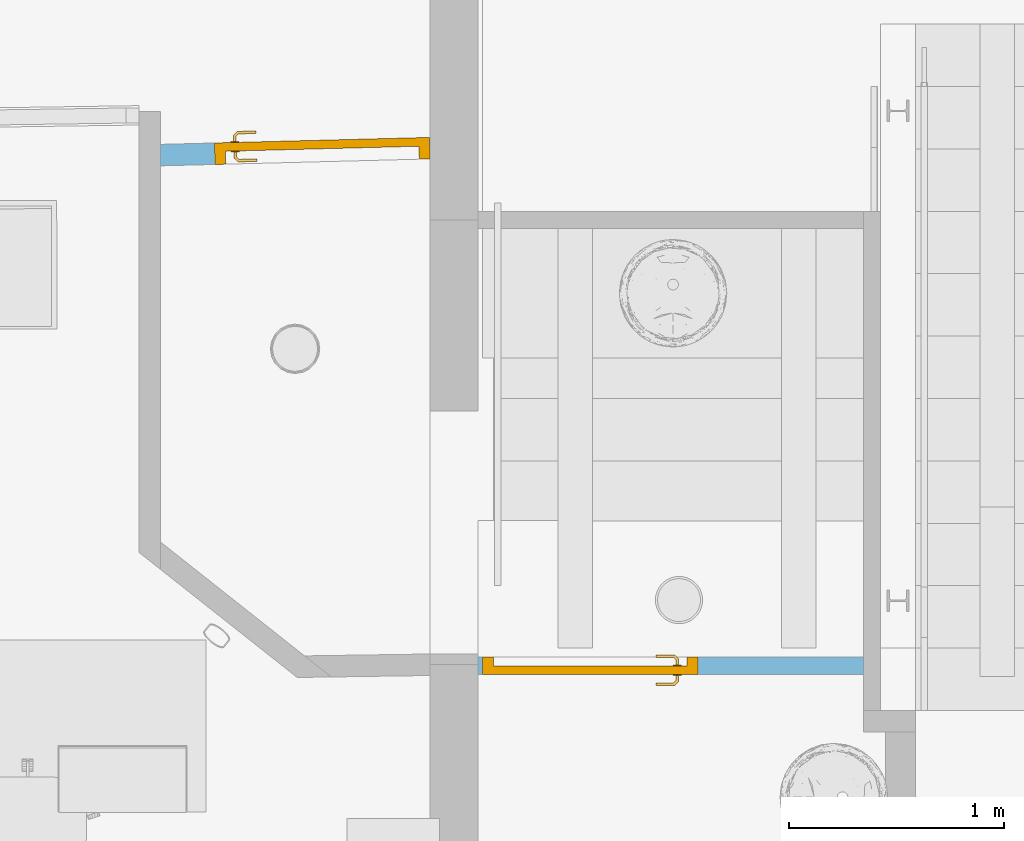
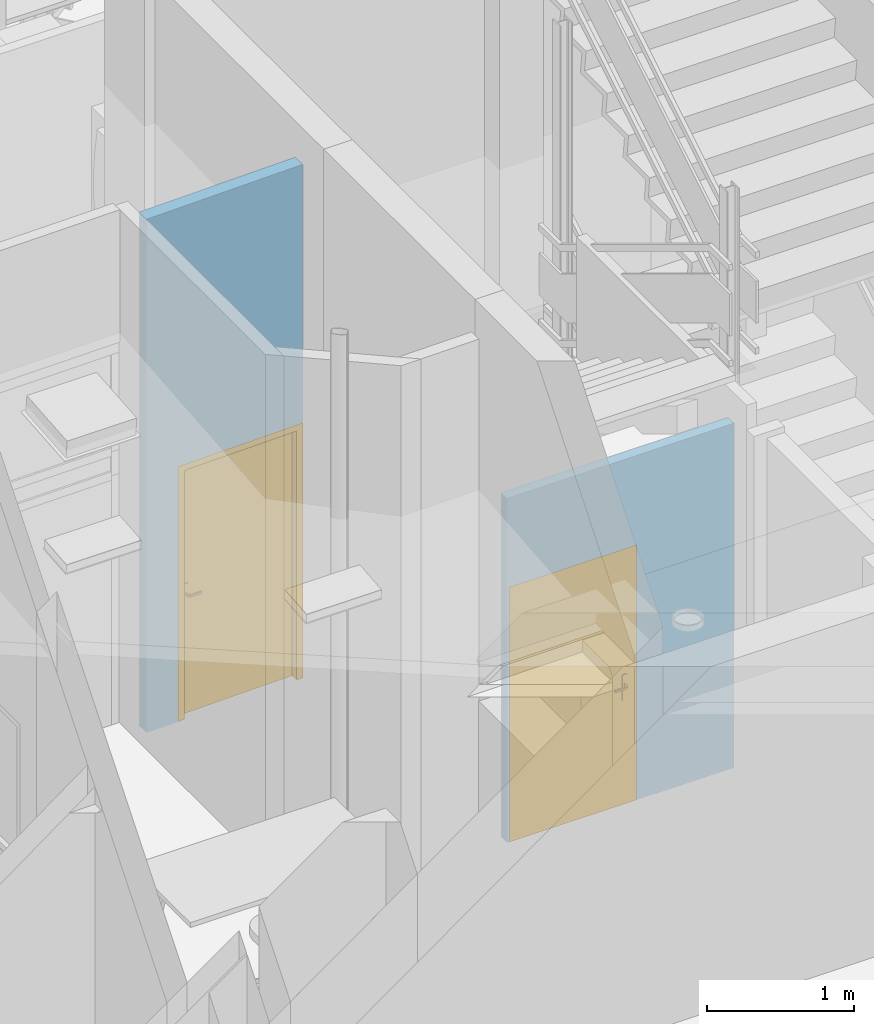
# One storey, part 38 of 128: 2 doors, 2 openings, plus 2 elements that do not belong to this part.
"""IFC2X3 building model written with IfcOpenShell, lengths in metres."""

from ifc_helpers import new_model, entity, si_unit, converted_unit, derived_unit, direction, frame, frame_2d, origin, place, context, subcontext, project, spatial, polyline, rectangle, outline, extrude, faceted_brep, source, transform, mapped, material, layer, layer_set, layer_usage, type_object, type_shapes, element, fill, save


model = new_model("IFC2X3")

# Units and contexts
model_context = context("Model", 3, precision=1e-05, world=origin(), true_north=direction((6.123031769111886e-17, 1.0)))
body_context = subcontext(model_context, "Body", "Model", "MODEL_VIEW")
ifc_project = project(units=[si_unit("LENGTHUNIT", "METRE"), si_unit("AREAUNIT", "SQUARE_METRE"), converted_unit("PLANEANGLEUNIT", "DEGREE", entity("IfcPlaneAngleMeasure", 0.017453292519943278), si_unit("PLANEANGLEUNIT", "RADIAN"), dimensions=[0, 0, 0, 0, 0, 0, 0]), derived_unit("THERMALTRANSMITTANCEUNIT", [(si_unit("MASSUNIT", "GRAM", prefix="KILO"), 1), (si_unit("THERMODYNAMICTEMPERATUREUNIT", "KELVIN"), -1), (si_unit("TIMEUNIT", "SECOND"), -3)])], contexts=[model_context])

# Site, building, storey
site_placement = place(None, origin())
site = spatial("IfcSite", under=ifc_project, at=site_placement, Name="Default", CompositionType="ELEMENT")
building_placement = place(site_placement, origin())
building = spatial("IfcBuilding", under=site, at=building_placement, CompositionType="ELEMENT")
storey_placement = place(building_placement, origin())
storey = spatial("IfcBuildingStorey", under=building, at=storey_placement, Name="00_RDC CAF", CompositionType="ELEMENT", Elevation=2.4982504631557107e-13)

# Wall, opening, door
ifc_material_1 = material(Name="ARC - Cloison")
ifc_layer_1 = layer(ifc_material_1, 0.1)
ifc_layer_set_1 = layer_set([ifc_layer_1], Name="Mur de base:Cl_Platre_100mm")
ifc_layer_usage_1 = layer_usage(ifc_layer_set_1, "AXIS2", "NEGATIVE", 0.05)
wall_type_1 = type_object("IfcWallType", Name="Mur de base:Cl_Platre_100mm", PredefinedType="STANDARD", material=ifc_layer_set_1)
wall_1_placement = place(storey_placement, frame((17.517688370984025, 134.3349596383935, 0.0), z_axis=(0.0, 0.0, 1.0), x_axis=(0.9996670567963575, 0.025802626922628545, 0.0)))
wall_1 = element("IfcWallStandardCase", 1, at=wall_1_placement, inside=storey, type_object=wall_type_1, material=ifc_layer_usage_1, Name="Mur de base:Cl_Platre_100mm", ObjectType="Mur de base:Cl_Platre_100mm", context=body_context, shape_type="SweptSolid", body=[
    extrude(outline(polyline([(0.0, -0.04999999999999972), (1.252152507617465, -0.05000000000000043), (1.2547336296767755, 0.04999999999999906), (0.002581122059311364, 0.04999999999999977), (0.0, -0.04999999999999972)])), origin(), (0.0, 0.0, 1.0), 4.278),
])
opening_1_placement = place(wall_1_placement, frame((0.25329704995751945, -0.04999999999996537, 0.0)))
opening_1 = element("IfcOpeningElement", 2, at=opening_1_placement, cuts=wall_1, Name="P_Tunnel_Simple:P_Int_Simple_Pleine_930x2090mm:1", ObjectType="Opening", context=body_context, shape_type="SweptSolid", body=[
    extrude(rectangle(XDim=2.1249999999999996, YDim=1.0, at=frame_2d((1.0624999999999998, 0.5), x_axis=(1.0, 0.0))), frame((0.0, 0.0, 0.0), z_axis=(0.0, 1.0, 0.0), x_axis=(0.0, 0.0, 1.0)), (0.0, 0.0, 1.0), 0.09999999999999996),
])
ifc_material_2 = material(Name="ARC - M.In - Blanc")
door_style_1 = type_object("IfcDoorStyle", Name="P_Tunnel_Simple:P_Int_Simple_Pleine_930x2090mm", ConstructionType="NOTDEFINED", OperationType="NOTDEFINED", ParameterTakesPrecedence=False, Sizeable=False, material=ifc_material_2)
shared_shape_1 = source(origin(), body_context, "Body", "Brep", [
    faceted_brep([(0.9029747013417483, 0.04500000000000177, 0.9922195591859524), (0.9070252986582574, 0.04500000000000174, 0.9922195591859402), (0.9110000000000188, 0.04500000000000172, 0.9929999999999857), (0.9110000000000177, 0.04500000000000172, 1.0069999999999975), (0.9070252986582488, 0.04500000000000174, 1.0077804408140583), (0.9029747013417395, 0.04500000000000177, 1.0077804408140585), (0.8989999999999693, 0.04500000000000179, 1.0069999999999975), (0.8989999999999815, 0.04500000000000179, 0.9930000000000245), (0.8989999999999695, 0.06748520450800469, 1.0069999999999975), (0.8989999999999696, 0.06748520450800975, 0.9930000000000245), (0.9029747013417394, 0.06913157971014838, 1.0077804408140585), (0.9070252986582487, 0.07080939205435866, 1.0077804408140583), (0.8908389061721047, 0.08699578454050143, 1.0077804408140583), (0.8891610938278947, 0.08294518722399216, 1.0077804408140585), (0.9110000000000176, 0.072455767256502, 1.0069999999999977), (0.9110000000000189, 0.07245576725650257, 0.9929999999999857), (0.9070252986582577, 0.07080939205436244, 0.9922195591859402), (0.9029747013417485, 0.0691315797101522, 0.9922195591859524), (0.8891610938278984, 0.08294518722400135, 0.9922195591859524), (0.8908389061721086, 0.08699578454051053, 0.9922195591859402), (0.8875147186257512, 0.07897048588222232, 1.0069999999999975), (0.8875147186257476, 0.07897048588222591, 0.9930000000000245), (0.8924852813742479, 0.09097048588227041, 1.0069999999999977), (0.8924852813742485, 0.09097048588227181, 0.9929999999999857), (0.8049542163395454, 0.08294518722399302, 1.0077804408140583), (0.8049542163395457, 0.08699578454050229, 1.007780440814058), (0.8049542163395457, 0.09097048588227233, 1.006999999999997), (0.8049542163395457, 0.09097048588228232, 0.9929999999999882), (0.8049542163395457, 0.08699578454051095, 0.99221955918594), (0.8049542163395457, 0.08294518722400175, 0.9922195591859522), (0.8049542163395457, 0.07897048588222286, 0.993000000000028), (0.8049542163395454, 0.07897048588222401, 1.0069999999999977), (0.8462344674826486, 0.07897048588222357, 1.0069999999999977), (0.8462344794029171, 0.07897048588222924, 0.9930000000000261), (0.8470576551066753, 0.08497048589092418, 1.0078786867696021), (0.8525547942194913, 0.09097048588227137, 1.0069999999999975), (0.8525547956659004, 0.09097048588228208, 0.9929999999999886), (0.8470576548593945, 0.08497048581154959, 0.9921213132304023)], [[[0, 1, 2, 3, 4, 5, 6, 7]], [[8, 9, 7, 6]], [[5, 10, 8, 6]], [[5, 4, 11, 12, 13, 10]], [[3, 14, 11, 4]], [[14, 3, 2, 15]], [[2, 1, 16, 15]], [[1, 0, 17, 18, 19, 16]], [[0, 7, 9, 17]], [[20, 21, 9, 8]], [[8, 10, 13, 20]], [[14, 22, 12, 11]], [[23, 22, 14, 15]], [[15, 16, 19, 23]], [[17, 9, 21, 18]], [[24, 25, 26, 27, 28, 29, 30, 31]], [[21, 20, 32, 31, 30, 33]], [[34, 24, 32]], [[25, 34, 35]], [[13, 32, 20]], [[24, 31, 32]], [[25, 35, 26]], [[35, 12, 22]], [[34, 12, 35]], [[34, 13, 12]], [[34, 32, 13]], [[24, 34, 25]], [[22, 23, 36, 27, 26, 35]], [[37, 28, 36]], [[36, 28, 27]], [[36, 23, 19]], [[18, 33, 37]], [[33, 18, 21]], [[30, 29, 33]], [[37, 29, 28]], [[37, 33, 29]], [[37, 36, 19]], [[18, 37, 19]]]),
    faceted_brep([(0.9029747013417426, -0.004999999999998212, 1.0077804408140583), (0.9070252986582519, -0.004999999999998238, 1.0077804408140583), (0.9110000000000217, -0.004999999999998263, 1.0069999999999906), (0.9110000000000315, -0.004999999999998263, 0.9929999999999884), (0.90702529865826, -0.004999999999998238, 0.9922195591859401), (0.9029747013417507, -0.004999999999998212, 0.9922195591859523), (0.8989999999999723, -0.0049999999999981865, 0.9930000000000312), (0.8989999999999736, -0.0049999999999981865, 1.006999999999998), (0.9070252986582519, -0.031004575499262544, 1.0077804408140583), (0.9110000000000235, -0.032650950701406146, 1.0069999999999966), (0.9029747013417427, -0.029326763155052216, 1.0077804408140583), (0.8892986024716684, -0.04300286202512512, 1.0077804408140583), (0.8909764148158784, -0.04705345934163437, 1.0077804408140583), (0.8989999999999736, -0.02768038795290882, 1.006999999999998), (0.8989999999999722, -0.027680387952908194, 0.9930000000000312), (0.9029747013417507, -0.0293267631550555, 0.9922195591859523), (0.9070252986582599, -0.031004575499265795, 0.9922195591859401), (0.8909764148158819, -0.04705345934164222, 0.9922195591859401), (0.8892986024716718, -0.043002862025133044, 0.9922195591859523), (0.9110000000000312, -0.03265095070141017, 0.9929999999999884), (0.8926227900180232, -0.051028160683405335, 1.0069999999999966), (0.8876522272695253, -0.03902816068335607, 1.006999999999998), (0.8876522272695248, -0.03902816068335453, 0.9930000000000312), (0.8926227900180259, -0.05102816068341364, 0.9929999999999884), (0.804981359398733, -0.05102816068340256, 1.0069999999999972), (0.804981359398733, -0.047053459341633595, 1.0077804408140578), (0.804981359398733, -0.04300286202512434, 1.007780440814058), (0.804981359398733, -0.03902816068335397, 1.0069999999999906), (0.804981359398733, -0.03902816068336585, 0.9930000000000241), (0.804981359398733, -0.04300286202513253, 0.992219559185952), (0.804981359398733, -0.047053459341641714, 0.9922195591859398), (0.804981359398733, -0.05102816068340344, 0.9929999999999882), (0.8471399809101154, -0.04502816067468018, 1.007878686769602), (0.8526923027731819, -0.051028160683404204, 1.0069999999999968), (0.8463167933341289, -0.03902816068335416, 1.0069999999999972), (0.8463167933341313, -0.039028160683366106, 0.9930000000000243), (0.8471399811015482, -0.04502816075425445, 0.9921213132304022), (0.8526923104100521, -0.05102816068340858, 0.9929999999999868)], [[[0, 1, 2, 3, 4, 5, 6, 7]], [[2, 1, 8, 9]], [[1, 0, 10, 11, 12, 8]], [[0, 7, 13, 10]], [[14, 13, 7, 6]], [[5, 15, 14, 6]], [[5, 4, 16, 17, 18, 15]], [[3, 19, 16, 4]], [[9, 19, 3, 2]], [[9, 8, 12, 20]], [[10, 13, 21, 11]], [[22, 21, 13, 14]], [[14, 15, 18, 22]], [[16, 19, 23, 17]], [[20, 23, 19, 9]], [[24, 25, 26, 27, 28, 29, 30, 31]], [[32, 25, 33]], [[33, 25, 24]], [[33, 20, 12]], [[11, 34, 32]], [[34, 11, 21]], [[27, 26, 34]], [[32, 26, 25]], [[32, 34, 26]], [[32, 33, 12]], [[11, 32, 12]], [[21, 22, 35, 28, 27, 34]], [[36, 29, 35]], [[30, 36, 37]], [[18, 35, 22]], [[29, 28, 35]], [[30, 37, 31]], [[37, 17, 23]], [[36, 17, 37]], [[36, 18, 17]], [[36, 35, 18]], [[29, 36, 30]], [[23, 20, 33, 24, 31, 37]]]),
    faceted_brep([(0.9250000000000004, 0.04000000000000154, 0.870000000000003), (0.9250000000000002, 0.04000000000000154, 1.0800000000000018), (0.9153527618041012, 0.040000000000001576, 1.0839960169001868), (0.9050000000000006, 0.040000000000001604, 1.0853589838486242), (0.8946472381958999, 0.04000000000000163, 1.083996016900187), (0.8850000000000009, 0.040000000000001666, 1.0800000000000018), (0.8849999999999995, 0.040000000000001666, 0.8700000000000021), (0.8946472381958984, 0.04000000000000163, 0.866003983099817), (0.904999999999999, 0.040000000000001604, 0.8646410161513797), (0.9153527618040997, 0.040000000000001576, 0.8660039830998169), (0.9050000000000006, 0.045000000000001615, 1.0853589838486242), (0.9153527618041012, 0.04500000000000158, 1.0839960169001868), (0.9250000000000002, 0.045000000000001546, 1.0800000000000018), (0.9249999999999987, 0.045000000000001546, 0.8700000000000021), (0.9153527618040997, 0.04500000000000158, 0.8660039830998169), (0.904999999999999, 0.045000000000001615, 0.8646410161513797), (0.8946472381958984, 0.04500000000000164, 0.866003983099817), (0.8849999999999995, 0.04500000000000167, 0.8700000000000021), (0.8850000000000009, 0.04500000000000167, 1.0800000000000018), (0.8946472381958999, 0.04500000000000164, 1.083996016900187)], [[[0, 1, 2, 3, 4, 5, 6, 7, 8, 9]], [[10, 11, 12, 13, 14, 15, 16, 17, 18, 19]], [[4, 19, 18, 5]], [[3, 10, 19, 4]], [[2, 11, 10, 3]], [[2, 1, 12, 11]], [[13, 12, 1, 0]], [[9, 14, 13, 0]], [[8, 15, 14, 9]], [[7, 16, 15, 8]], [[7, 6, 17, 16]], [[17, 6, 5, 18]]]),
    faceted_brep([(0.925, -0.004999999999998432, 0.8700000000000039), (0.9249999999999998, -0.004999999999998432, 1.0800000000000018), (0.9153527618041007, -0.004999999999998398, 1.083996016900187), (0.9050000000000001, -0.004999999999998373, 1.0853589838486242), (0.8946472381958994, -0.004999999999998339, 1.0839960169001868), (0.8850000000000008, -0.004999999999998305, 1.0800000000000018), (0.8849999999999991, -0.004999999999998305, 0.8700000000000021), (0.8946472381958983, -0.004999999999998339, 0.866003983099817), (0.9049999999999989, -0.004999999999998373, 0.8646410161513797), (0.9153527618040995, -0.004999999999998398, 0.866003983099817), (0.9249999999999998, 0.0, 1.0800000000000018), (0.9249999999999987, 0.0, 0.8700000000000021), (0.9153527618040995, 0.0, 0.866003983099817), (0.9049999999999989, 0.0, 0.8646410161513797), (0.8946472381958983, 0.0, 0.866003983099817), (0.8849999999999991, 0.0, 0.8700000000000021), (0.8850000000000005, 0.0, 1.0800000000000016), (0.8946472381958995, 0.0, 1.0839960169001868), (0.9050000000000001, 0.0, 1.0853589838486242), (0.9153527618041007, 0.0, 1.083996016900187)], [[[0, 1, 2, 3, 4, 5, 6, 7, 8, 9]], [[10, 11, 12, 13, 14, 15, 16, 17, 18, 19]], [[9, 12, 11, 0]], [[8, 13, 12, 9]], [[7, 14, 13, 8]], [[7, 6, 15, 14]], [[15, 6, 5, 16]], [[4, 17, 16, 5]], [[3, 18, 17, 4]], [[2, 19, 18, 3]], [[2, 1, 10, 19]], [[11, 10, 1, 0]]]),
    faceted_brep([(0.9650000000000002, 0.04000000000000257, 2.09), (0.9650000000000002, 0.04000000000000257, 0.0), (0.03500000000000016, 0.04000000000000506, 0.0), (0.03500000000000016, 0.04000000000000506, 2.09), (0.03500000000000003, 0.0, 0.0), (0.03500000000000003, 0.0, 2.09), (0.9650000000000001, 0.0, 0.0), (0.9650000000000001, 0.0, 2.09)], [[[0, 1, 2, 3]], [[2, 4, 5, 3]], [[1, 6, 4, 2]], [[0, 7, 6, 1]], [[7, 5, 4, 6]], [[3, 5, 7, 0]]]),
    faceted_brep([(0.0, 0.10000000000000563, 0.0), (0.050000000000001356, 0.10000000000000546, 0.0), (0.050000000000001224, 0.040000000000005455, 0.0), (0.03499999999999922, 0.04000000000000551, 0.0), (0.03499999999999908, 0.0, 0.0), (0.0, 0.0, 0.0), (0.0, 0.10000000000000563, 2.124999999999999), (1.0, 0.1000000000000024, 2.124999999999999), (1.0, 0.1000000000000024, 0.0), (0.9499999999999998, 0.10000000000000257, 0.0), (0.9499999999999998, 0.10000000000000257, 2.0749999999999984), (0.050000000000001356, 0.10000000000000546, 2.0749999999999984), (0.050000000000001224, 0.04000000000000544, 2.0749999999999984), (0.9499999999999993, 0.04000000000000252, 2.0749999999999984), (0.9499999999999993, 0.04000000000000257, 0.0), (0.9650000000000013, 0.04000000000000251, 0.0), (0.9650000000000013, 0.04000000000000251, 2.0900000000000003), (0.03499999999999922, 0.04000000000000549, 2.0900000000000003), (0.03499999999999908, 0.0, 2.0900000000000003), (0.965000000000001, 0.0, 2.0900000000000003), (0.965000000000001, 0.0, 0.0), (1.0, 0.0, 0.0), (1.0, 0.0, 2.124999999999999), (0.0, 0.0, 2.124999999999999)], [[[0, 1, 2, 3, 4, 5]], [[1, 0, 6, 7, 8, 9, 10, 11]], [[2, 1, 11, 12]], [[3, 2, 12, 13, 14, 15, 16, 17]], [[4, 3, 17, 18]], [[5, 4, 18, 19, 20, 21, 22, 23]], [[0, 5, 23, 6]], [[7, 22, 21, 8]], [[8, 21, 20, 15, 14, 9]], [[13, 10, 9, 14]], [[19, 16, 15, 20]], [[12, 11, 10, 13]], [[18, 17, 16, 19]], [[6, 23, 22, 7]]]),
])
type_shapes(door_style_1, [shared_shape_1])
door_1_placement = place(opening_1_placement, frame((1.0, 0.09999999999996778, 0.0), z_axis=(0.0, 0.0, 1.0), x_axis=(-1.0, 0.0, 0.0)))
door_1 = element("IfcDoor", 3, at=door_1_placement, inside=storey, type_object=door_style_1, material=ifc_material_2, Name="P_Tunnel_Simple:P_Int_Simple_Pleine_930x2090mm", ObjectType="P_Tunnel_Simple:P_Int_Simple_Pleine_930x2090mm", OverallHeight=2.1249999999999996, OverallWidth=1.0000000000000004, context=body_context, shape_type="MappedRepresentation", body=[
    mapped(shared_shape_1, transform((0.0, 0.0, 0.0), scale=1.0)),
])
fill(opening_1, door_1)

ifc_layer_2 = layer(ifc_material_1, 0.08)
ifc_layer_set_2 = layer_set([ifc_layer_2], Name="Mur de base:Cl_Platre_80mm")
ifc_layer_usage_2 = layer_usage(ifc_layer_set_2, "AXIS2", "NEGATIVE", 0.04)
wall_type_2 = type_object("IfcWallType", Name="Mur de base:Cl_Platre_80mm", PredefinedType="STANDARD", material=ifc_layer_set_2)
wall_2_placement = place(storey_placement, frame((18.995714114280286, 131.96060398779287, 0.0)))
wall_2 = element("IfcWallStandardCase", 4, at=wall_2_placement, inside=storey, type_object=wall_type_2, material=ifc_layer_usage_2, Name="Mur de base:Cl_Platre_80mm", ObjectType="Mur de base:Cl_Platre_80mm", context=body_context, shape_type="SweptSolid", body=[
    extrude(rectangle(XDim=1.7908078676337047, YDim=0.08000000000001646, at=frame_2d((0.8954039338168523, 0.0), x_axis=(-1.0, 0.0))), origin(), (0.0, 0.0, 1.0), 2.8693846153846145),
])
opening_2_placement = place(wall_2_placement, frame((1.020807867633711, 0.04000000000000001, 0.0)))
opening_2 = element("IfcOpeningElement", 5, at=opening_2_placement, cuts=wall_2, Name="P_Tunnel_Simple:P_Int_Simple_Pleine_930x2090mm:1", ObjectType="Opening", context=body_context, shape_type="SweptSolid", body=[
    extrude(rectangle(XDim=2.1249999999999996, YDim=1.0, at=frame_2d((1.0624999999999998, 0.5000000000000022), x_axis=(1.0, 0.0))), frame((0.0, 0.0, 0.0), z_axis=(0.0, -1.0, 0.0), x_axis=(0.0, 0.0, 1.0)), (0.0, 0.0, 1.0), 0.08),
])
door_style_2 = type_object("IfcDoorStyle", Name="P_Tunnel_Simple:P_Int_Simple_Pleine_930x2090mm", ConstructionType="NOTDEFINED", OperationType="NOTDEFINED", ParameterTakesPrecedence=False, Sizeable=False, material=ifc_material_2)
shared_shape_2 = source(origin(), body_context, "Body", "Brep", [
    faceted_brep([(0.9029747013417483, 0.04500000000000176, 0.9922195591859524), (0.9070252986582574, 0.04500000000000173, 0.9922195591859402), (0.9110000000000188, 0.045000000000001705, 0.9929999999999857), (0.9110000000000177, 0.045000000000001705, 1.0069999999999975), (0.9070252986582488, 0.04500000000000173, 1.0077804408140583), (0.9029747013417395, 0.04500000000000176, 1.0077804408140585), (0.8989999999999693, 0.04500000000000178, 1.0069999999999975), (0.8989999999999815, 0.04500000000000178, 0.9930000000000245), (0.8989999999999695, 0.06748520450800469, 1.0069999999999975), (0.8989999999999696, 0.06748520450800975, 0.9930000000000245), (0.9029747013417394, 0.06913157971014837, 1.0077804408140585), (0.9070252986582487, 0.07080939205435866, 1.0077804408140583), (0.8908389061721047, 0.08699578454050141, 1.0077804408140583), (0.8891610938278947, 0.08294518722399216, 1.0077804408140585), (0.9110000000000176, 0.072455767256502, 1.0069999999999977), (0.9110000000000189, 0.07245576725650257, 0.9929999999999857), (0.9070252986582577, 0.07080939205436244, 0.9922195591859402), (0.9029747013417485, 0.0691315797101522, 0.9922195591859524), (0.8891610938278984, 0.08294518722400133, 0.9922195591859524), (0.8908389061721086, 0.08699578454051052, 0.9922195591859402), (0.8875147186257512, 0.07897048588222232, 1.0069999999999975), (0.8875147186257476, 0.0789704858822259, 0.9930000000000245), (0.8924852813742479, 0.09097048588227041, 1.0069999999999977), (0.8924852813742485, 0.0909704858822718, 0.9929999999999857), (0.8049542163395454, 0.08294518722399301, 1.0077804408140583), (0.8049542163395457, 0.08699578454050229, 1.007780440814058), (0.8049542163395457, 0.0909704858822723, 1.006999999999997), (0.8049542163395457, 0.09097048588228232, 0.9929999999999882), (0.8049542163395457, 0.08699578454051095, 0.99221955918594), (0.8049542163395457, 0.08294518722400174, 0.9922195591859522), (0.8049542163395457, 0.07897048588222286, 0.993000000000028), (0.8049542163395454, 0.07897048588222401, 1.0069999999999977), (0.8462344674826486, 0.07897048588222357, 1.0069999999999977), (0.8462344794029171, 0.07897048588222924, 0.9930000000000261), (0.8470576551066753, 0.08497048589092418, 1.0078786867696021), (0.8525547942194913, 0.09097048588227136, 1.0069999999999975), (0.8525547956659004, 0.09097048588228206, 0.9929999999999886), (0.8470576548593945, 0.08497048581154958, 0.9921213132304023)], [[[0, 1, 2, 3, 4, 5, 6, 7]], [[8, 9, 7, 6]], [[5, 10, 8, 6]], [[5, 4, 11, 12, 13, 10]], [[3, 14, 11, 4]], [[14, 3, 2, 15]], [[2, 1, 16, 15]], [[1, 0, 17, 18, 19, 16]], [[0, 7, 9, 17]], [[20, 21, 9, 8]], [[8, 10, 13, 20]], [[14, 22, 12, 11]], [[23, 22, 14, 15]], [[15, 16, 19, 23]], [[17, 9, 21, 18]], [[24, 25, 26, 27, 28, 29, 30, 31]], [[21, 20, 32, 31, 30, 33]], [[34, 24, 32]], [[25, 34, 35]], [[13, 32, 20]], [[24, 31, 32]], [[25, 35, 26]], [[35, 12, 22]], [[34, 12, 35]], [[34, 13, 12]], [[34, 32, 13]], [[24, 34, 25]], [[22, 23, 36, 27, 26, 35]], [[37, 28, 36]], [[36, 28, 27]], [[36, 23, 19]], [[18, 33, 37]], [[33, 18, 21]], [[30, 29, 33]], [[37, 29, 28]], [[37, 33, 29]], [[37, 36, 19]], [[18, 37, 19]]]),
    faceted_brep([(0.9029747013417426, -0.00499999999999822, 1.0077804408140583), (0.9070252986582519, -0.004999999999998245, 1.0077804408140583), (0.9110000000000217, -0.0049999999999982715, 1.0069999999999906), (0.9110000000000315, -0.0049999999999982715, 0.9929999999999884), (0.90702529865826, -0.004999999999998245, 0.9922195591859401), (0.9029747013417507, -0.00499999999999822, 0.9922195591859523), (0.8989999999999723, -0.004999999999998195, 0.9930000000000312), (0.8989999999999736, -0.004999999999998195, 1.006999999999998), (0.9070252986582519, -0.031004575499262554, 1.0077804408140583), (0.9110000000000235, -0.03265095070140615, 1.0069999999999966), (0.9029747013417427, -0.029326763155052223, 1.0077804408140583), (0.8892986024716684, -0.043002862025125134, 1.0077804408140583), (0.8909764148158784, -0.04705345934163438, 1.0077804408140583), (0.8989999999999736, -0.02768038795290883, 1.006999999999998), (0.8989999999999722, -0.027680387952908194, 0.9930000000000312), (0.9029747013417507, -0.029326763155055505, 0.9922195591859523), (0.9070252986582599, -0.031004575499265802, 0.9922195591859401), (0.8909764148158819, -0.047053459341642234, 0.9922195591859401), (0.8892986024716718, -0.04300286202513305, 0.9922195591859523), (0.9110000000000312, -0.03265095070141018, 0.9929999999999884), (0.8926227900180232, -0.05102816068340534, 1.0069999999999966), (0.8876522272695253, -0.03902816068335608, 1.006999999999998), (0.8876522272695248, -0.03902816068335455, 0.9930000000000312), (0.8926227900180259, -0.051028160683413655, 0.9929999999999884), (0.804981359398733, -0.051028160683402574, 1.0069999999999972), (0.804981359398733, -0.0470534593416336, 1.0077804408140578), (0.804981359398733, -0.04300286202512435, 1.007780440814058), (0.804981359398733, -0.039028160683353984, 1.0069999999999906), (0.804981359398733, -0.039028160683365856, 0.9930000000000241), (0.804981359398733, -0.043002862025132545, 0.992219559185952), (0.804981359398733, -0.04705345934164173, 0.9922195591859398), (0.804981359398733, -0.05102816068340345, 0.9929999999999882), (0.8471399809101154, -0.045028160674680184, 1.007878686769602), (0.8526923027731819, -0.05102816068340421, 1.0069999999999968), (0.8463167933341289, -0.039028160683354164, 1.0069999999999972), (0.8463167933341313, -0.03902816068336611, 0.9930000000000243), (0.8471399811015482, -0.04502816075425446, 0.9921213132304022), (0.8526923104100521, -0.0510281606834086, 0.9929999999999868)], [[[0, 1, 2, 3, 4, 5, 6, 7]], [[2, 1, 8, 9]], [[1, 0, 10, 11, 12, 8]], [[0, 7, 13, 10]], [[14, 13, 7, 6]], [[5, 15, 14, 6]], [[5, 4, 16, 17, 18, 15]], [[3, 19, 16, 4]], [[9, 19, 3, 2]], [[9, 8, 12, 20]], [[10, 13, 21, 11]], [[22, 21, 13, 14]], [[14, 15, 18, 22]], [[16, 19, 23, 17]], [[20, 23, 19, 9]], [[24, 25, 26, 27, 28, 29, 30, 31]], [[32, 25, 33]], [[33, 25, 24]], [[33, 20, 12]], [[11, 34, 32]], [[34, 11, 21]], [[27, 26, 34]], [[32, 26, 25]], [[32, 34, 26]], [[32, 33, 12]], [[11, 32, 12]], [[21, 22, 35, 28, 27, 34]], [[36, 29, 35]], [[30, 36, 37]], [[18, 35, 22]], [[29, 28, 35]], [[30, 37, 31]], [[37, 17, 23]], [[36, 17, 37]], [[36, 18, 17]], [[36, 35, 18]], [[29, 36, 30]], [[23, 20, 33, 24, 31, 37]]]),
    faceted_brep([(0.9250000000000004, 0.040000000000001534, 0.870000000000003), (0.9250000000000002, 0.040000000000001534, 1.0800000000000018), (0.9153527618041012, 0.04000000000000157, 1.0839960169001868), (0.9050000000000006, 0.040000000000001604, 1.0853589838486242), (0.8946472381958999, 0.040000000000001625, 1.083996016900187), (0.8850000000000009, 0.04000000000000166, 1.0800000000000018), (0.8849999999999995, 0.04000000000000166, 0.8700000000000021), (0.8946472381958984, 0.040000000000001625, 0.866003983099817), (0.904999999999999, 0.040000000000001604, 0.8646410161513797), (0.9153527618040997, 0.04000000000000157, 0.8660039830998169), (0.9050000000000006, 0.045000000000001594, 1.0853589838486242), (0.9153527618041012, 0.04500000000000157, 1.0839960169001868), (0.9250000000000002, 0.04500000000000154, 1.0800000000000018), (0.9249999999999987, 0.04500000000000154, 0.8700000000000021), (0.9153527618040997, 0.04500000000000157, 0.8660039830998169), (0.904999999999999, 0.045000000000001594, 0.8646410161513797), (0.8946472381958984, 0.04500000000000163, 0.866003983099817), (0.8849999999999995, 0.045000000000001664, 0.8700000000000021), (0.8850000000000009, 0.045000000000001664, 1.0800000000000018), (0.8946472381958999, 0.04500000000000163, 1.083996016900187)], [[[0, 1, 2, 3, 4, 5, 6, 7, 8, 9]], [[10, 11, 12, 13, 14, 15, 16, 17, 18, 19]], [[4, 19, 18, 5]], [[3, 10, 19, 4]], [[2, 11, 10, 3]], [[2, 1, 12, 11]], [[13, 12, 1, 0]], [[9, 14, 13, 0]], [[8, 15, 14, 9]], [[7, 16, 15, 8]], [[7, 6, 17, 16]], [[17, 6, 5, 18]]]),
    faceted_brep([(0.925, -0.004999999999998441, 0.8700000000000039), (0.9249999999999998, -0.004999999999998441, 1.0800000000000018), (0.9153527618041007, -0.004999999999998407, 1.083996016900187), (0.9050000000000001, -0.004999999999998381, 1.0853589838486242), (0.8946472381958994, -0.004999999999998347, 1.0839960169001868), (0.8850000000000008, -0.004999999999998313, 1.0800000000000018), (0.8849999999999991, -0.004999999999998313, 0.8700000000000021), (0.8946472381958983, -0.004999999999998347, 0.866003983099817), (0.9049999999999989, -0.004999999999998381, 0.8646410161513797), (0.9153527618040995, -0.004999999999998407, 0.866003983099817), (0.9249999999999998, 0.0, 1.0800000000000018), (0.9249999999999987, 0.0, 0.8700000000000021), (0.9153527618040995, 0.0, 0.866003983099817), (0.9049999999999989, 0.0, 0.8646410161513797), (0.8946472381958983, 0.0, 0.866003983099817), (0.8849999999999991, 0.0, 0.8700000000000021), (0.8850000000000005, 0.0, 1.0800000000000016), (0.8946472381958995, 0.0, 1.0839960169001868), (0.9050000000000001, 0.0, 1.0853589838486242), (0.9153527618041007, 0.0, 1.083996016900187)], [[[0, 1, 2, 3, 4, 5, 6, 7, 8, 9]], [[10, 11, 12, 13, 14, 15, 16, 17, 18, 19]], [[9, 12, 11, 0]], [[8, 13, 12, 9]], [[7, 14, 13, 8]], [[7, 6, 15, 14]], [[15, 6, 5, 16]], [[4, 17, 16, 5]], [[3, 18, 17, 4]], [[2, 19, 18, 3]], [[2, 1, 10, 19]], [[11, 10, 1, 0]]]),
    faceted_brep([(0.9650000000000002, 0.04000000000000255, 2.09), (0.9650000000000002, 0.04000000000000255, 0.0), (0.03500000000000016, 0.04000000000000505, 0.0), (0.03500000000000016, 0.04000000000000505, 2.09), (0.03500000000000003, 0.0, 0.0), (0.03500000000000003, 0.0, 2.09), (0.9650000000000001, 0.0, 0.0), (0.9650000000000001, 0.0, 2.09)], [[[0, 1, 2, 3]], [[2, 4, 5, 3]], [[1, 6, 4, 2]], [[0, 7, 6, 1]], [[7, 5, 4, 6]], [[3, 5, 7, 0]]]),
    faceted_brep([(0.0, 0.08000000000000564, 0.0), (0.050000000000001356, 0.0800000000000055, 0.0), (0.050000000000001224, 0.04000000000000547, 0.0), (0.03499999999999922, 0.04000000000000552, 0.0), (0.03499999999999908, 0.0, 0.0), (0.0, 0.0, 0.0), (0.0, 0.08000000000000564, 2.1249999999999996), (1.0, 0.08000000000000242, 2.1249999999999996), (1.0, 0.08000000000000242, 0.0), (0.949999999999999, 0.0800000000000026, 0.0), (0.9499999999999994, 0.0800000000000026, 2.0749999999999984), (0.050000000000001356, 0.08000000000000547, 2.0749999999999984), (0.050000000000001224, 0.04000000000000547, 2.0749999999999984), (0.949999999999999, 0.04000000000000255, 2.074999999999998), (0.949999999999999, 0.040000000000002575, 0.0), (0.965000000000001, 0.04000000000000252, 0.0), (0.9650000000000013, 0.04000000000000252, 2.0900000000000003), (0.03499999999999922, 0.0400000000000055, 2.0900000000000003), (0.03499999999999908, 0.0, 2.0900000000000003), (0.9650000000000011, 0.0, 2.0900000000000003), (0.9650000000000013, 0.0, 0.0), (1.0, 0.0, 0.0), (1.0, 0.0, 2.1249999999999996), (0.0, 0.0, 2.124999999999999)], [[[0, 1, 2, 3, 4, 5]], [[1, 0, 6, 7, 8, 9, 10, 11]], [[2, 1, 11, 12]], [[3, 2, 12, 13, 14, 15, 16, 17]], [[4, 3, 17, 18]], [[5, 4, 18, 19, 20, 21, 22, 23]], [[0, 5, 23, 6]], [[7, 22, 21, 8]], [[8, 21, 20, 15, 14, 9]], [[13, 10, 9, 14]], [[19, 16, 15, 20]], [[12, 11, 10, 13]], [[18, 17, 16, 19]], [[6, 23, 22, 7]]]),
])
type_shapes(door_style_2, [shared_shape_2])
door_2_placement = place(opening_2_placement, frame((-1.0, -0.0800000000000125, 0.0)))
door_2 = element("IfcDoor", 6, at=door_2_placement, inside=storey, type_object=door_style_2, material=ifc_material_2, Name="P_Tunnel_Simple:P_Int_Simple_Pleine_930x2090mm", ObjectType="P_Tunnel_Simple:P_Int_Simple_Pleine_930x2090mm", OverallHeight=2.1249999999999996, OverallWidth=1.0000000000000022, context=body_context, shape_type="MappedRepresentation", body=[
    mapped(shared_shape_2, transform((0.0, 0.0, 0.0), scale=1.0)),
])
fill(opening_2, door_2)

save(model, "model.ifc")
